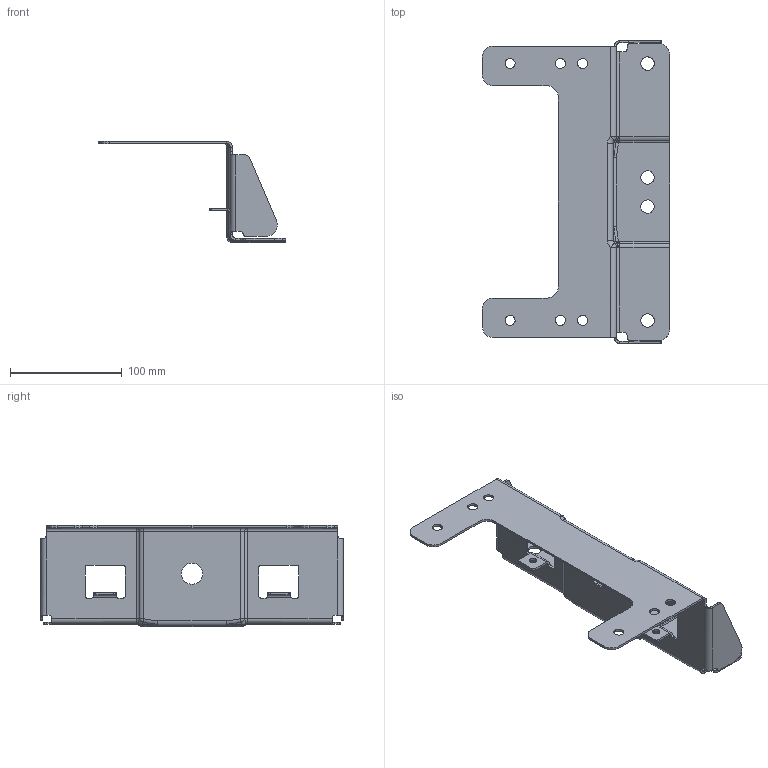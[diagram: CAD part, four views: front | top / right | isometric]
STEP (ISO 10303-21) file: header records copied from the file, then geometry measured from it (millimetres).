
FILE_DESCRIPTION(('CATIA V5 STEP Exchange'),'2;1');
FILE_NAME('F:\福田A6\1-数据\6-冻结数据\第四批\第四批\SHT0016014-宽车主驾驶底部支架焊接总成\SHT0016146-宽车主驾驶后侧钣金\SHT0016146.stp','2024-08-27T08:08:41+00:00',('none'),('none'),'CATIA Version 5 Release 20 GA (IN-10)','CATIA V5 STEP AP203','none');
FILE_SCHEMA(('CONFIG_CONTROL_DESIGN'));
Length unit declared in the file: millimetre
Products named in the file (1): SHT0016146
Bounding box: 167.66 x 271 x 90.5 mm (x, y, z)
Volume: 110139.7 mm3; surface area: 114183.5 mm2
Topology: 1 solids, 1 shells, 304 faces, 889 edges, 579 vertices
Faces by surface type: bspline 178, cylinder 60, plane 44, sphere 12, torus 8, revolution 2
Entity records: 12728 total; most frequent: CARTESIAN_POINT 6428, ORIENTED_EDGE 1762, EDGE_CURVE 881, VERTEX_POINT 579, B_SPLINE_CURVE_WITH_KNOTS 578, DIRECTION 501, EDGE_LOOP 334, ADVANCED_FACE 304
